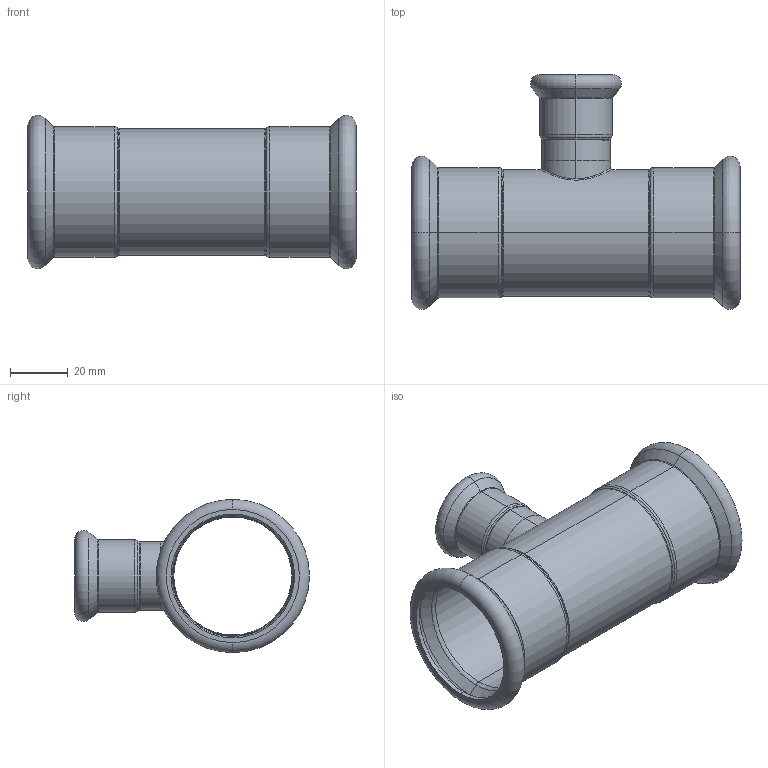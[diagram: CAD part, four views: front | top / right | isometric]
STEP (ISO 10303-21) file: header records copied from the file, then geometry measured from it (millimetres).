
FILE_DESCRIPTION (( 'STEP AP203' ), '1' );
FILE_NAME ('GDA5203.STEP', '2019-01-12T05:53:57', ( '' ), ( '' ), 'SwSTEP 2.0', 'SolidWorks 2015', '' );
FILE_SCHEMA (( 'CONFIG_CONTROL_DESIGN' ));
Length unit declared in the file: millimetre
Products named in the file (3): GDA5203; T(R)-¢ñ-42¡Á22''; T-ｉ-01-22
Assembly tree (2 placements, depth 2):
  GDA5203
    T(R)-¢ñ-42¡Á22''
    T-ｉ-01-22
Bounding box: 114 x 81.64 x 53.29 mm (x, y, z)
Volume: 29177.7 mm3; surface area: 39639 mm2
Topology: 2 solids, 2 shells, 114 faces, 234 edges, 128 vertices
Faces by surface type: torus 48, cylinder 30, cone 24, plane 8, bspline 4
Entity records: 4259 total; most frequent: CARTESIAN_POINT 1469, DIRECTION 620, ORIENTED_EDGE 468, AXIS2_PLACEMENT_3D 283, EDGE_CURVE 234, CIRCLE 168, VERTEX_POINT 128, EDGE_LOOP 124
